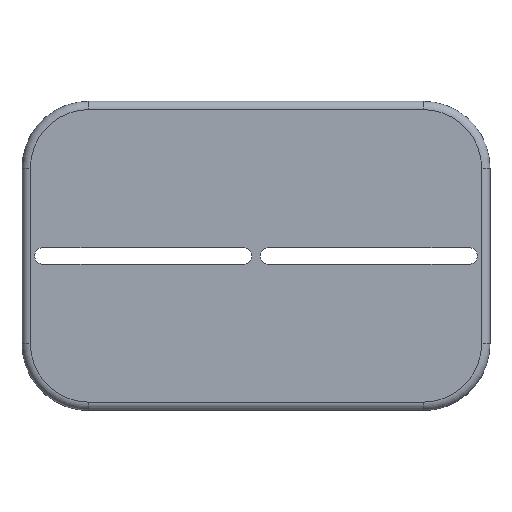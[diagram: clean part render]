
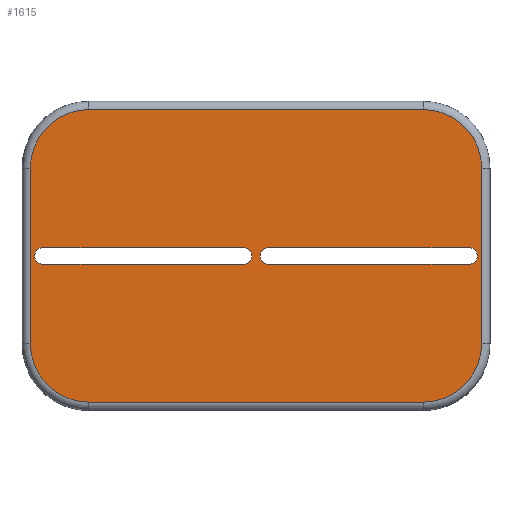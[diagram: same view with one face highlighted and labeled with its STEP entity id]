
A CAD part, top view. The second image highlights one B-rep face of the part: STEP entity #1615.
In plain terms, the highlighted planar face has unit normal (0, 0, 1).
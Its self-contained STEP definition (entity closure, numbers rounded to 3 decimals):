
#53=FACE_BOUND('',#260,.T.);
#54=FACE_BOUND('',#261,.T.);
#72=PLANE('',#1803);
#152=FACE_OUTER_BOUND('',#259,.T.);
#259=EDGE_LOOP('',(#1268,#1269,#1270,#1271,#1272,#1273,#1274,#1275));
#260=EDGE_LOOP('',(#1276,#1277,#1278,#1279));
#261=EDGE_LOOP('',(#1280,#1281,#1282,#1283));
#360=LINE('',#2887,#472);
#361=LINE('',#2898,#473);
#363=LINE('',#2910,#475);
#365=LINE('',#2922,#477);
#374=LINE('',#2950,#486);
#375=LINE('',#2953,#487);
#376=LINE('',#2958,#488);
#377=LINE('',#2961,#489);
#472=VECTOR('',#2162,10.);
#473=VECTOR('',#2175,10.);
#475=VECTOR('',#2189,10.);
#477=VECTOR('',#2203,10.);
#486=VECTOR('',#2234,10.);
#487=VECTOR('',#2237,10.);
#488=VECTOR('',#2240,10.);
#489=VECTOR('',#2243,10.);
#602=CIRCLE('',#1778,14.);
#606=CIRCLE('',#1784,14.);
#610=CIRCLE('',#1790,14.);
#613=CIRCLE('',#1795,14.);
#617=CIRCLE('',#1804,2.);
#618=CIRCLE('',#1805,2.);
#619=CIRCLE('',#1806,2.);
#620=CIRCLE('',#1807,2.);
#731=VERTEX_POINT('',#2880);
#734=VERTEX_POINT('',#2885);
#736=VERTEX_POINT('',#2890);
#738=VERTEX_POINT('',#2896);
#740=VERTEX_POINT('',#2902);
#742=VERTEX_POINT('',#2908);
#744=VERTEX_POINT('',#2914);
#746=VERTEX_POINT('',#2920);
#752=VERTEX_POINT('',#2946);
#753=VERTEX_POINT('',#2947);
#754=VERTEX_POINT('',#2949);
#755=VERTEX_POINT('',#2951);
#756=VERTEX_POINT('',#2954);
#757=VERTEX_POINT('',#2955);
#758=VERTEX_POINT('',#2957);
#759=VERTEX_POINT('',#2959);
#923=EDGE_CURVE('',#734,#731,#360,.T.);
#925=EDGE_CURVE('',#736,#734,#602,.T.);
#928=EDGE_CURVE('',#738,#736,#361,.T.);
#931=EDGE_CURVE('',#740,#738,#606,.T.);
#934=EDGE_CURVE('',#742,#740,#363,.T.);
#937=EDGE_CURVE('',#744,#742,#610,.T.);
#940=EDGE_CURVE('',#746,#744,#365,.T.);
#942=EDGE_CURVE('',#731,#746,#613,.T.);
#953=EDGE_CURVE('',#752,#753,#617,.T.);
#954=EDGE_CURVE('',#753,#754,#374,.T.);
#955=EDGE_CURVE('',#754,#755,#618,.T.);
#956=EDGE_CURVE('',#755,#752,#375,.T.);
#957=EDGE_CURVE('',#756,#757,#619,.T.);
#958=EDGE_CURVE('',#757,#758,#376,.T.);
#959=EDGE_CURVE('',#758,#759,#620,.T.);
#960=EDGE_CURVE('',#759,#756,#377,.T.);
#1268=ORIENTED_EDGE('',*,*,#923,.F.);
#1269=ORIENTED_EDGE('',*,*,#925,.F.);
#1270=ORIENTED_EDGE('',*,*,#928,.F.);
#1271=ORIENTED_EDGE('',*,*,#931,.F.);
#1272=ORIENTED_EDGE('',*,*,#934,.F.);
#1273=ORIENTED_EDGE('',*,*,#937,.F.);
#1274=ORIENTED_EDGE('',*,*,#940,.F.);
#1275=ORIENTED_EDGE('',*,*,#942,.F.);
#1276=ORIENTED_EDGE('',*,*,#953,.T.);
#1277=ORIENTED_EDGE('',*,*,#954,.T.);
#1278=ORIENTED_EDGE('',*,*,#955,.T.);
#1279=ORIENTED_EDGE('',*,*,#956,.T.);
#1280=ORIENTED_EDGE('',*,*,#957,.T.);
#1281=ORIENTED_EDGE('',*,*,#958,.T.);
#1282=ORIENTED_EDGE('',*,*,#959,.T.);
#1283=ORIENTED_EDGE('',*,*,#960,.T.);
#1615=ADVANCED_FACE('',(#152,#53,#54),#72,.T.);
#1778=AXIS2_PLACEMENT_3D('',#2892,#2167,#2168);
#1784=AXIS2_PLACEMENT_3D('',#2904,#2181,#2182);
#1790=AXIS2_PLACEMENT_3D('',#2916,#2195,#2196);
#1795=AXIS2_PLACEMENT_3D('',#2925,#2207,#2208);
#1803=AXIS2_PLACEMENT_3D('',#2945,#2230,#2231);
#1804=AXIS2_PLACEMENT_3D('',#2948,#2232,#2233);
#1805=AXIS2_PLACEMENT_3D('',#2952,#2235,#2236);
#1806=AXIS2_PLACEMENT_3D('',#2956,#2238,#2239);
#1807=AXIS2_PLACEMENT_3D('',#2960,#2241,#2242);
#2162=DIRECTION('',(0.,-1.,0.));
#2167=DIRECTION('center_axis',(0.,0.,-1.));
#2168=DIRECTION('ref_axis',(0.707,0.707,0.));
#2175=DIRECTION('',(1.,0.,0.));
#2181=DIRECTION('center_axis',(0.,0.,-1.));
#2182=DIRECTION('ref_axis',(-0.707,0.707,0.));
#2189=DIRECTION('',(0.,1.,0.));
#2195=DIRECTION('center_axis',(0.,0.,-1.));
#2196=DIRECTION('ref_axis',(-0.707,-0.707,0.));
#2203=DIRECTION('',(-1.,0.,0.));
#2207=DIRECTION('center_axis',(0.,0.,-1.));
#2208=DIRECTION('ref_axis',(0.707,-0.707,0.));
#2230=DIRECTION('center_axis',(0.,0.,1.));
#2231=DIRECTION('ref_axis',(-1.,0.,0.));
#2232=DIRECTION('center_axis',(0.,0.,-1.));
#2233=DIRECTION('ref_axis',(-1.,0.,0.));
#2234=DIRECTION('',(1.,0.,0.));
#2235=DIRECTION('center_axis',(0.,0.,-1.));
#2236=DIRECTION('ref_axis',(-1.,0.,0.));
#2237=DIRECTION('',(-1.,0.,0.));
#2238=DIRECTION('center_axis',(0.,0.,-1.));
#2239=DIRECTION('ref_axis',(-1.,0.,0.));
#2240=DIRECTION('',(1.,0.,0.));
#2241=DIRECTION('center_axis',(0.,0.,-1.));
#2242=DIRECTION('ref_axis',(-1.,0.,0.));
#2243=DIRECTION('',(-1.,0.,0.));
#2880=CARTESIAN_POINT('',(54.,-21.,35.5));
#2885=CARTESIAN_POINT('',(54.,21.,35.5));
#2887=CARTESIAN_POINT('',(54.,-10.5,35.5));
#2890=CARTESIAN_POINT('',(40.,35.,35.5));
#2892=CARTESIAN_POINT('Origin',(40.,21.,35.5));
#2896=CARTESIAN_POINT('',(-40.,35.,35.5));
#2898=CARTESIAN_POINT('',(20.,35.,35.5));
#2902=CARTESIAN_POINT('',(-54.,21.,35.5));
#2904=CARTESIAN_POINT('Origin',(-40.,21.,35.5));
#2908=CARTESIAN_POINT('',(-54.,-21.,35.5));
#2910=CARTESIAN_POINT('',(-54.,10.5,35.5));
#2914=CARTESIAN_POINT('',(-40.,-35.,35.5));
#2916=CARTESIAN_POINT('Origin',(-40.,-21.,35.5));
#2920=CARTESIAN_POINT('',(40.,-35.,35.5));
#2922=CARTESIAN_POINT('',(-20.,-35.,35.5));
#2925=CARTESIAN_POINT('Origin',(40.,-21.,35.5));
#2945=CARTESIAN_POINT('Origin',(0.,0.,
35.5));
#2946=CARTESIAN_POINT('',(3.,-2.,35.5));
#2947=CARTESIAN_POINT('',(3.,2.,35.5));
#2948=CARTESIAN_POINT('Origin',(3.,0.,35.5));
#2949=CARTESIAN_POINT('',(51.,2.,35.5));
#2950=CARTESIAN_POINT('',(-55.196,2.,35.5));
#2951=CARTESIAN_POINT('',(51.,-2.,35.5));
#2952=CARTESIAN_POINT('Origin',(51.,0.,35.5));
#2953=CARTESIAN_POINT('',(-55.196,-2.,35.5));
#2954=CARTESIAN_POINT('',(-51.,-2.,35.5));
#2955=CARTESIAN_POINT('',(-51.,2.,35.5));
#2956=CARTESIAN_POINT('Origin',(-51.,0.,35.5));
#2957=CARTESIAN_POINT('',(-3.,2.,35.5));
#2958=CARTESIAN_POINT('',(-55.196,2.,35.5));
#2959=CARTESIAN_POINT('',(-3.,-2.,35.5));
#2960=CARTESIAN_POINT('Origin',(-3.,0.,35.5));
#2961=CARTESIAN_POINT('',(-55.196,-2.,35.5));
